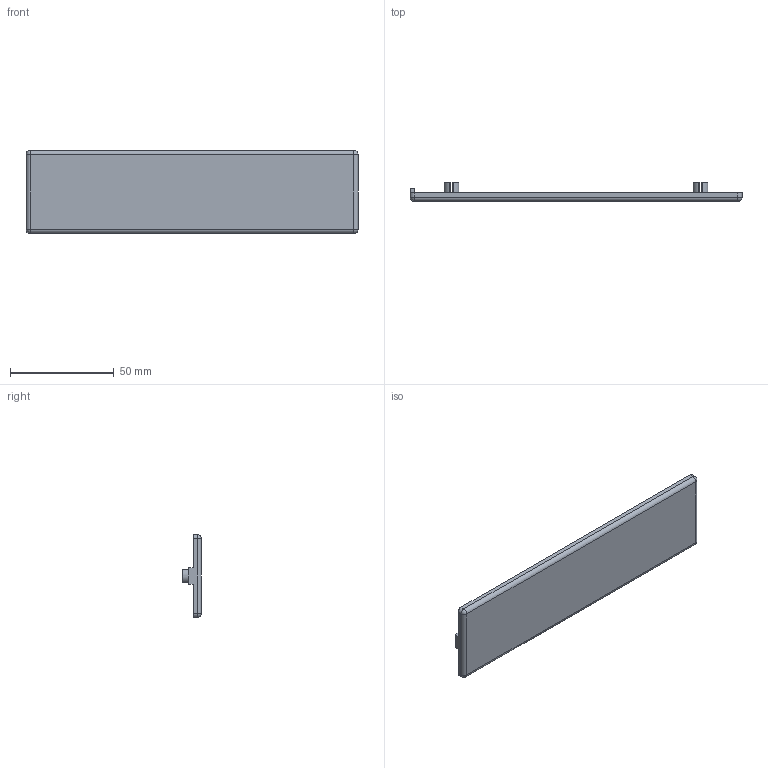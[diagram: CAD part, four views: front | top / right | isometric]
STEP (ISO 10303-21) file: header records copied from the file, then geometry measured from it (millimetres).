
FILE_DESCRIPTION (( 'STEP AP214' ), '1' );
FILE_NAME ('4079.STEP', '2017-07-20T10:59:23', ( '' ), ( '' ), 'SwSTEP 2.0', 'SolidWorks 2014', '' );
FILE_SCHEMA (( 'AUTOMOTIVE_DESIGN' ));
Length unit declared in the file: millimetre
Products named in the file (2): 4079
Bounding box: 160 x 9 x 40 mm (x, y, z)
Volume: 14287 mm3; surface area: 15345.8 mm2
Topology: 1 solids, 1 shells, 70 faces, 184 edges, 116 vertices
Faces by surface type: cylinder 40, plane 26, sphere 4
Entity records: 2197 total; most frequent: DIRECTION 404, CARTESIAN_POINT 368, ORIENTED_EDGE 360, EDGE_CURVE 180, AXIS2_PLACEMENT_3D 152, VERTEX_POINT 116, LINE 100, VECTOR 100
